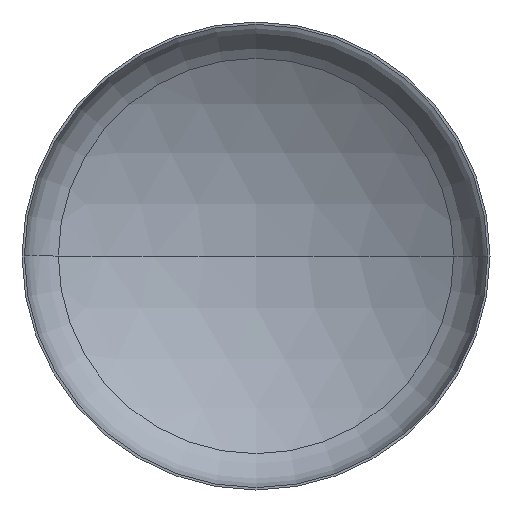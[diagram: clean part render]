
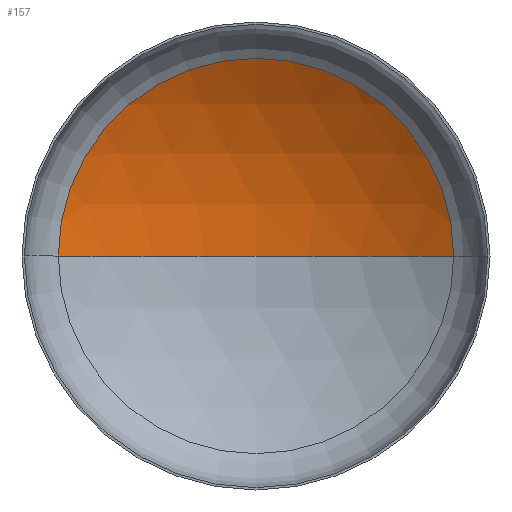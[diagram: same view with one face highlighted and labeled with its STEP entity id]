
A CAD part, front view. The second image highlights one B-rep face of the part: STEP entity #157.
In plain terms, the highlighted spherical face has radius 6400 mm.
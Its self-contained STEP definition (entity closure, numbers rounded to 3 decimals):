
#1 = VERTEX_POINT ( 'NONE', #288 ) ;
#17 = CIRCLE ( 'NONE', #110, 3379.497 ) ;
#33 = ORIENTED_EDGE ( 'NONE', *, *, #143, .F. ) ;
#37 = VERTEX_POINT ( 'NONE', #281 ) ;
#64 = AXIS2_PLACEMENT_3D ( 'NONE', #175, #269, #265 ) ;
#88 = EDGE_LOOP ( 'NONE', ( #33, #116, #96 ) ) ;
#96 = ORIENTED_EDGE ( 'NONE', *, *, #138, .T. ) ;
#101 = AXIS2_PLACEMENT_3D ( 'NONE', #215, #212, #214 ) ;
#109 = AXIS2_PLACEMENT_3D ( 'NONE', #295, #294, #223 ) ;
#110 = AXIS2_PLACEMENT_3D ( 'NONE', #293, #177, #192 ) ;
#116 = ORIENTED_EDGE ( 'NONE', *, *, #142, .T. ) ;
#122 = CARTESIAN_POINT ( 'NONE',  ( -3379.497, 1164.535, 0. ) ) ;
#138 = EDGE_CURVE ( 'NONE', #37, #332, #17, .T. ) ;
#142 = EDGE_CURVE ( 'NONE', #1, #37, #359, .T. ) ;
#143 = EDGE_CURVE ( 'NONE', #1, #332, #244, .T. ) ;
#157 = ADVANCED_FACE ( 'NONE', ( #160 ), #351, .F. ) ;
#160 = FACE_OUTER_BOUND ( 'NONE', #88, .T. ) ;
#175 = CARTESIAN_POINT ( 'NONE',  ( 0., -4270.444, 0. ) ) ;
#177 = DIRECTION ( 'NONE',  ( 0., -1., 0. ) ) ;
#192 = DIRECTION ( 'NONE',  ( 1., 0., 0. ) ) ;
#212 = DIRECTION ( 'NONE',  ( 0., 0., 1. ) ) ;
#214 = DIRECTION ( 'NONE',  ( 1., 0., 0. ) ) ;
#215 = CARTESIAN_POINT ( 'NONE',  ( 0., -4270.444, 0. ) ) ;
#223 = DIRECTION ( 'NONE',  ( -1., 0., 0. ) ) ;
#244 = CIRCLE ( 'NONE', #101, 6400. ) ;
#265 = DIRECTION ( 'NONE',  ( -1., 0., 0. ) ) ;
#269 = DIRECTION ( 'NONE',  ( 0., 0., -1. ) ) ;
#281 = CARTESIAN_POINT ( 'NONE',  ( 3379.497, 1164.535, 0. ) ) ;
#288 = CARTESIAN_POINT ( 'NONE',  ( 0., 2129.556, 0. ) ) ;
#293 = CARTESIAN_POINT ( 'NONE',  ( 0., 1164.535, 0. ) ) ;
#294 = DIRECTION ( 'NONE',  ( 0., 0., -1. ) ) ;
#295 = CARTESIAN_POINT ( 'NONE',  ( 0., -4270.444, 0. ) ) ;
#332 = VERTEX_POINT ( 'NONE', #122 ) ;
#351 = SPHERICAL_SURFACE ( 'NONE', #64, 6400. ) ;
#359 = CIRCLE ( 'NONE', #109, 6400. ) ;
